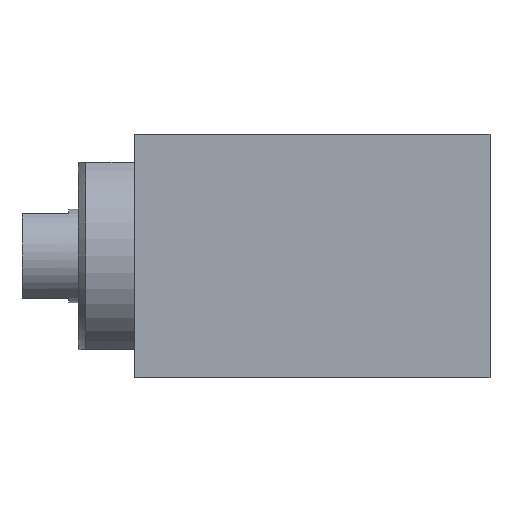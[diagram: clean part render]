
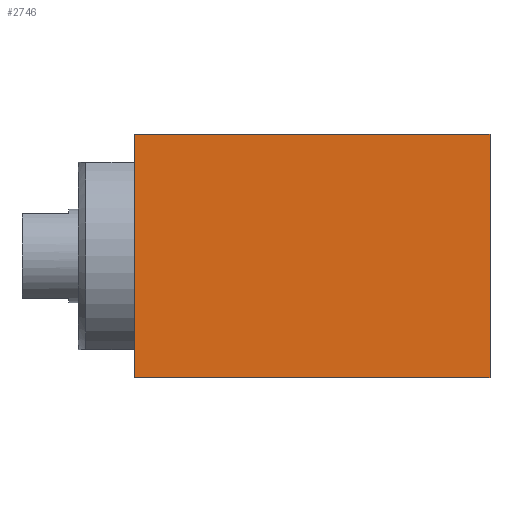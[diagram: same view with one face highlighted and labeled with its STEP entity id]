
A CAD part, front view. The second image highlights one B-rep face of the part: STEP entity #2746.
In plain terms, the highlighted planar face has unit normal (0, -1, 0).
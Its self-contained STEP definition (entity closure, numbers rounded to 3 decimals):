
#58 = DIRECTION ( 'NONE',  ( -1., 0., 0. ) ) ;
#82 = ORIENTED_EDGE ( 'NONE', *, *, #2843, .T. ) ;
#231 = DIRECTION ( 'NONE',  ( 0., 0., 1. ) ) ;
#248 = CARTESIAN_POINT ( 'NONE',  ( 19., -11., 6.5 ) ) ;
#293 = LINE ( 'NONE', #2839, #419 ) ;
#302 = LINE ( 'NONE', #2851, #1332 ) ;
#355 = FACE_OUTER_BOUND ( 'NONE', #2873, .T. ) ;
#419 = VECTOR ( 'NONE', #58, 1000. ) ;
#532 = DIRECTION ( 'NONE',  ( -1., 0., 0. ) ) ;
#549 = DIRECTION ( 'NONE',  ( 1., 0., 0. ) ) ;
#601 = EDGE_CURVE ( 'NONE', #1768, #1487, #293, .T. ) ;
#619 = CARTESIAN_POINT ( 'NONE',  ( 19., -11., -6.5 ) ) ;
#639 = ORIENTED_EDGE ( 'NONE', *, *, #1355, .T. ) ;
#656 = DIRECTION ( 'NONE',  ( 0., 0., 1. ) ) ;
#872 = LINE ( 'NONE', #619, #2167 ) ;
#898 = CARTESIAN_POINT ( 'NONE',  ( 19., -11., -6.5 ) ) ;
#947 = LINE ( 'NONE', #2129, #2450 ) ;
#1332 = VECTOR ( 'NONE', #231, 1000. ) ;
#1345 = CARTESIAN_POINT ( 'NONE',  ( 0., -11., 6.5 ) ) ;
#1355 = EDGE_CURVE ( 'NONE', #1369, #2904, #947, .T. ) ;
#1369 = VERTEX_POINT ( 'NONE', #248 ) ;
#1405 = ORIENTED_EDGE ( 'NONE', *, *, #601, .F. ) ;
#1487 = VERTEX_POINT ( 'NONE', #1494 ) ;
#1494 = CARTESIAN_POINT ( 'NONE',  ( 0., -11., -6.5 ) ) ;
#1768 = VERTEX_POINT ( 'NONE', #898 ) ;
#1943 = ORIENTED_EDGE ( 'NONE', *, *, #2976, .F. ) ;
#1953 = DIRECTION ( 'NONE',  ( 0., -1., 0. ) ) ;
#2129 = CARTESIAN_POINT ( 'NONE',  ( 19., -11., 6.5 ) ) ;
#2167 = VECTOR ( 'NONE', #656, 1000. ) ;
#2370 = AXIS2_PLACEMENT_3D ( 'NONE', #2468, #1953, #549 ) ;
#2408 = PLANE ( 'NONE',  #2370 ) ;
#2450 = VECTOR ( 'NONE', #532, 1000. ) ;
#2468 = CARTESIAN_POINT ( 'NONE',  ( 19., -11., -6.5 ) ) ;
#2746 = ADVANCED_FACE ( 'NONE', ( #355 ), #2408, .T. ) ;
#2839 = CARTESIAN_POINT ( 'NONE',  ( 19., -11., -6.5 ) ) ;
#2843 = EDGE_CURVE ( 'NONE', #1768, #1369, #872, .T. ) ;
#2851 = CARTESIAN_POINT ( 'NONE',  ( 0., -11., -6.5 ) ) ;
#2873 = EDGE_LOOP ( 'NONE', ( #1943, #1405, #82, #639 ) ) ;
#2904 = VERTEX_POINT ( 'NONE', #1345 ) ;
#2976 = EDGE_CURVE ( 'NONE', #1487, #2904, #302, .T. ) ;
